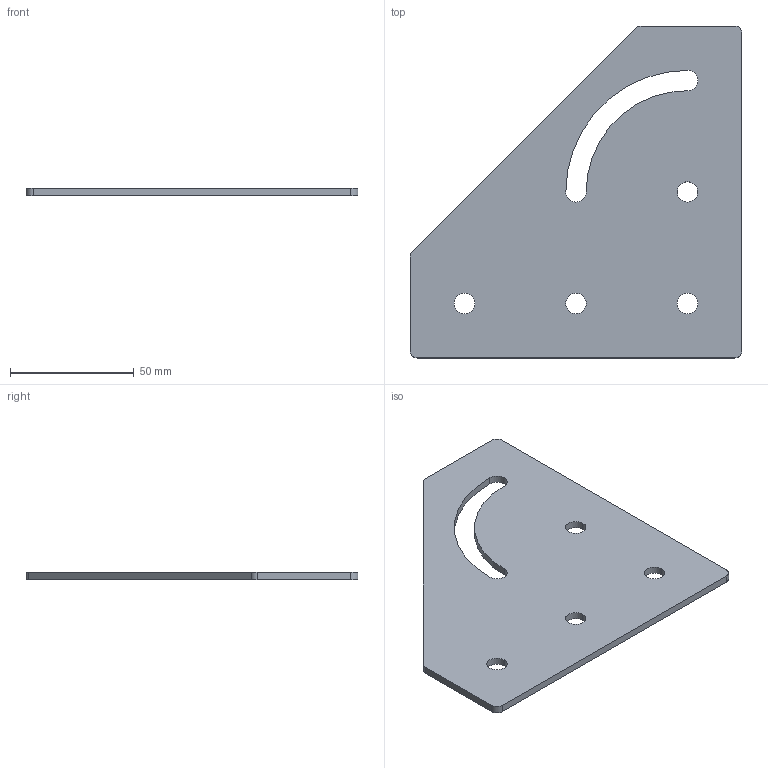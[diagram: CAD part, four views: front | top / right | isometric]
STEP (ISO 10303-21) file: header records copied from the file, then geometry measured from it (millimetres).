
FILE_DESCRIPTION (( 'STEP AP214' ), '1' );
FILE_NAME ('deg90s45.STEP', '2018-03-07T13:41:33', ( '' ), ( '' ), 'SwSTEP 2.0', 'SolidWorks 2014', '' );
FILE_SCHEMA (( 'AUTOMOTIVE_DESIGN' ));
Length unit declared in the file: millimetre
Products named in the file (2): deg90s45
Bounding box: 134 x 134 x 3 mm (x, y, z)
Volume: 38622.4 mm3; surface area: 27992.8 mm2
Topology: 1 solids, 1 shells, 24 faces, 66 edges, 44 vertices
Faces by surface type: cylinder 17, plane 7
Entity records: 864 total; most frequent: DIRECTION 152, CARTESIAN_POINT 136, ORIENTED_EDGE 132, EDGE_CURVE 66, AXIS2_PLACEMENT_3D 60, VERTEX_POINT 44, CIRCLE 34, EDGE_LOOP 34
